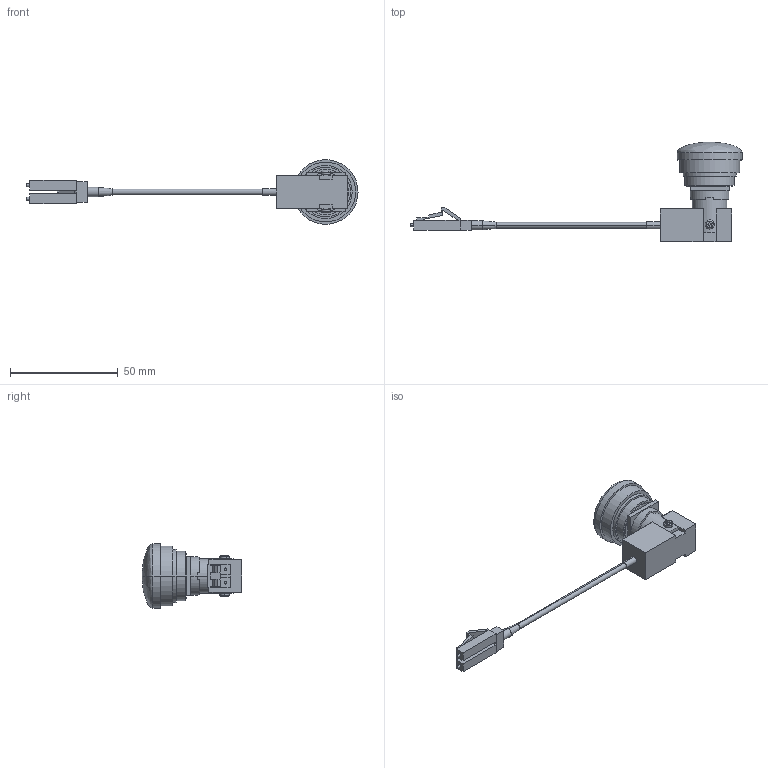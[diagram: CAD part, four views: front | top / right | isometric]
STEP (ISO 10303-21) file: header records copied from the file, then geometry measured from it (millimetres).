
FILE_DESCRIPTION (( 'STEP AP203' ), '1' );
FILE_NAME ('MR380.STEP', '2013-08-15T16:59:48', ( '' ), ( '' ), 'SwSTEP 2.0', 'SolidWorks 2013', '' );
FILE_SCHEMA (( 'CONFIG_CONTROL_DESIGN' ));
Length unit declared in the file: inch
Products named in the file (1): MR380
Bounding box: 153.94 x 46.17 x 30 mm (x, y, z)
Surface area: 9311.4 mm2 (no closed solid volume)
Topology: 0 solids, 9 shells, 163 faces, 453 edges, 307 vertices
Faces by surface type: plane 125, cylinder 30, torus 4, bspline 2, cone 2
Entity records: 5366 total; most frequent: CARTESIAN_POINT 1066, DIRECTION 867, ORIENTED_EDGE 836, EDGE_CURVE 451, LINE 343, VECTOR 343, VERTEX_POINT 307, AXIS2_PLACEMENT_3D 262
